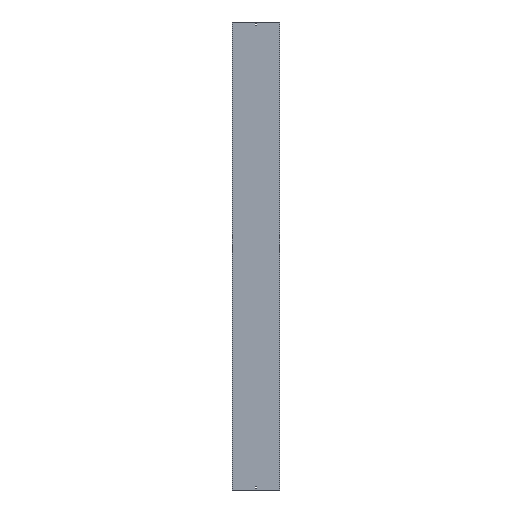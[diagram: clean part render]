
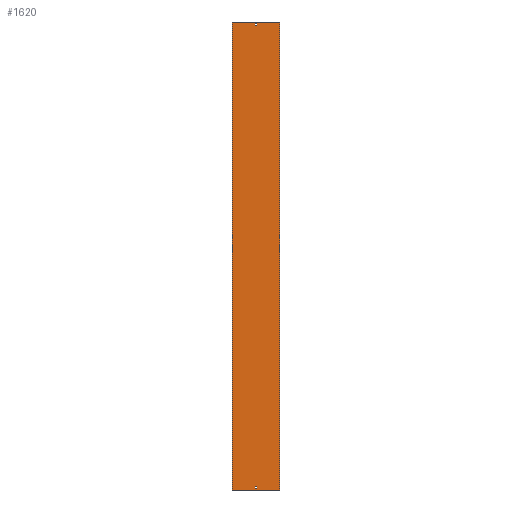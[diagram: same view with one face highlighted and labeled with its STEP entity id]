
A CAD part, front view. The second image highlights one B-rep face of the part: STEP entity #1620.
In plain terms, the highlighted planar face has unit normal (0, -1, 0).
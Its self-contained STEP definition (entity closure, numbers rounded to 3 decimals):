
#7 = LINE ( 'NONE', #376, #1618 ) ;
#9 = DIRECTION ( 'NONE',  ( 1., 0., 0. ) ) ;
#75 = VERTEX_POINT ( 'NONE', #1150 ) ;
#88 = EDGE_CURVE ( 'NONE', #940, #419, #652, .T. ) ;
#96 = CARTESIAN_POINT ( 'NONE',  ( -3.25, 0., 1479. ) ) ;
#99 = CARTESIAN_POINT ( 'NONE',  ( 3.25, 0., -1488. ) ) ;
#105 = DIRECTION ( 'NONE',  ( 0., 0., -1. ) ) ;
#112 = CARTESIAN_POINT ( 'NONE',  ( -152., 0., 1500. ) ) ;
#124 = CARTESIAN_POINT ( 'NONE',  ( 3.25, 0., 1479. ) ) ;
#127 = VERTEX_POINT ( 'NONE', #1544 ) ;
#135 = FACE_BOUND ( 'NONE', #486, .T. ) ;
#151 = CARTESIAN_POINT ( 'NONE',  ( 152., 0., 1500. ) ) ;
#160 = EDGE_CURVE ( 'NONE', #127, #533, #278, .T. ) ;
#166 = EDGE_LOOP ( 'NONE', ( #1317, #826, #477, #857 ) ) ;
#170 = DIRECTION ( 'NONE',  ( -1., 0., 0. ) ) ;
#176 = DIRECTION ( 'NONE',  ( 0., 0., -1. ) ) ;
#202 = VERTEX_POINT ( 'NONE', #1063 ) ;
#222 = CARTESIAN_POINT ( 'NONE',  ( -3.25, 0., -1488. ) ) ;
#234 = DIRECTION ( 'NONE',  ( 0., 0., 1. ) ) ;
#259 = FACE_OUTER_BOUND ( 'NONE', #166, .T. ) ;
#278 = LINE ( 'NONE', #151, #485 ) ;
#324 = VERTEX_POINT ( 'NONE', #732 ) ;
#330 = CARTESIAN_POINT ( 'NONE',  ( 3.25, 0., 1488. ) ) ;
#356 = LINE ( 'NONE', #1041, #1005 ) ;
#374 = CARTESIAN_POINT ( 'NONE',  ( -3.25, 0., 1488. ) ) ;
#376 = CARTESIAN_POINT ( 'NONE',  ( -3.25, 0., -1488. ) ) ;
#419 = VERTEX_POINT ( 'NONE', #124 ) ;
#426 = DIRECTION ( 'NONE',  ( 1., 0., 0. ) ) ;
#435 = AXIS2_PLACEMENT_3D ( 'NONE', #112, #1167, #502 ) ;
#477 = ORIENTED_EDGE ( 'NONE', *, *, #1259, .F. ) ;
#485 = VECTOR ( 'NONE', #176, 1000. ) ;
#486 = EDGE_LOOP ( 'NONE', ( #1284, #655, #1148, #1125 ) ) ;
#493 = VECTOR ( 'NONE', #1404, 1000. ) ;
#502 = DIRECTION ( 'NONE',  ( -1., 0., 0. ) ) ;
#504 = EDGE_CURVE ( 'NONE', #202, #324, #7, .T. ) ;
#516 = EDGE_CURVE ( 'NONE', #419, #790, #1269, .T. ) ;
#533 = VERTEX_POINT ( 'NONE', #1662 ) ;
#570 = VECTOR ( 'NONE', #1266, 1000. ) ;
#603 = LINE ( 'NONE', #99, #1443 ) ;
#637 = CARTESIAN_POINT ( 'NONE',  ( -3.25, 0., 1479. ) ) ;
#652 = LINE ( 'NONE', #637, #852 ) ;
#655 = ORIENTED_EDGE ( 'NONE', *, *, #998, .T. ) ;
#663 = LINE ( 'NONE', #1327, #1246 ) ;
#712 = ORIENTED_EDGE ( 'NONE', *, *, #516, .F. ) ;
#714 = LINE ( 'NONE', #1098, #570 ) ;
#718 = EDGE_CURVE ( 'NONE', #1651, #533, #1091, .T. ) ;
#732 = CARTESIAN_POINT ( 'NONE',  ( -3.25, 0., -1488. ) ) ;
#790 = VERTEX_POINT ( 'NONE', #330 ) ;
#817 = CARTESIAN_POINT ( 'NONE',  ( -3.25, 0., 1488. ) ) ;
#826 = ORIENTED_EDGE ( 'NONE', *, *, #160, .F. ) ;
#828 = EDGE_CURVE ( 'NONE', #897, #1651, #714, .T. ) ;
#830 = VECTOR ( 'NONE', #234, 1000. ) ;
#852 = VECTOR ( 'NONE', #9, 1000. ) ;
#857 = ORIENTED_EDGE ( 'NONE', *, *, #828, .T. ) ;
#879 = CARTESIAN_POINT ( 'NONE',  ( 3.25, 0., 1488. ) ) ;
#889 = EDGE_CURVE ( 'NONE', #1475, #940, #1153, .T. ) ;
#897 = VERTEX_POINT ( 'NONE', #1405 ) ;
#940 = VERTEX_POINT ( 'NONE', #96 ) ;
#944 = VECTOR ( 'NONE', #1496, 1000. ) ;
#998 = EDGE_CURVE ( 'NONE', #75, #1661, #663, .T. ) ;
#1005 = VECTOR ( 'NONE', #1306, 1000. ) ;
#1011 = LINE ( 'NONE', #222, #493 ) ;
#1017 = PLANE ( 'NONE',  #435 ) ;
#1041 = CARTESIAN_POINT ( 'NONE',  ( -152., 0., 1500. ) ) ;
#1063 = CARTESIAN_POINT ( 'NONE',  ( 3.25, 0., -1488. ) ) ;
#1069 = ORIENTED_EDGE ( 'NONE', *, *, #1356, .F. ) ;
#1091 = LINE ( 'NONE', #1634, #944 ) ;
#1098 = CARTESIAN_POINT ( 'NONE',  ( -152., 0., 1500. ) ) ;
#1125 = ORIENTED_EDGE ( 'NONE', *, *, #504, .T. ) ;
#1148 = ORIENTED_EDGE ( 'NONE', *, *, #1524, .T. ) ;
#1150 = CARTESIAN_POINT ( 'NONE',  ( -3.25, 0., -1479. ) ) ;
#1153 = LINE ( 'NONE', #374, #1547 ) ;
#1158 = CARTESIAN_POINT ( 'NONE',  ( -152., 0., -1500. ) ) ;
#1167 = DIRECTION ( 'NONE',  ( 0., 1., 0. ) ) ;
#1172 = ORIENTED_EDGE ( 'NONE', *, *, #889, .F. ) ;
#1208 = EDGE_CURVE ( 'NONE', #324, #75, #1011, .T. ) ;
#1246 = VECTOR ( 'NONE', #426, 1000. ) ;
#1259 = EDGE_CURVE ( 'NONE', #897, #127, #356, .T. ) ;
#1266 = DIRECTION ( 'NONE',  ( 0., 0., -1. ) ) ;
#1269 = LINE ( 'NONE', #879, #830 ) ;
#1284 = ORIENTED_EDGE ( 'NONE', *, *, #1208, .T. ) ;
#1289 = CARTESIAN_POINT ( 'NONE',  ( 3.25, 0., -1479. ) ) ;
#1306 = DIRECTION ( 'NONE',  ( 1., 0., 0. ) ) ;
#1317 = ORIENTED_EDGE ( 'NONE', *, *, #718, .T. ) ;
#1327 = CARTESIAN_POINT ( 'NONE',  ( -3.25, 0., -1479. ) ) ;
#1354 = CARTESIAN_POINT ( 'NONE',  ( -3.25, 0., 1488. ) ) ;
#1356 = EDGE_CURVE ( 'NONE', #790, #1475, #1608, .T. ) ;
#1357 = EDGE_LOOP ( 'NONE', ( #1438, #1172, #1069, #712 ) ) ;
#1372 = DIRECTION ( 'NONE',  ( 0., 0., -1. ) ) ;
#1404 = DIRECTION ( 'NONE',  ( 0., 0., 1. ) ) ;
#1405 = CARTESIAN_POINT ( 'NONE',  ( -152., 0., 1500. ) ) ;
#1416 = VECTOR ( 'NONE', #170, 1000. ) ;
#1438 = ORIENTED_EDGE ( 'NONE', *, *, #88, .F. ) ;
#1443 = VECTOR ( 'NONE', #1372, 1000. ) ;
#1475 = VERTEX_POINT ( 'NONE', #1354 ) ;
#1496 = DIRECTION ( 'NONE',  ( 1., 0., 0. ) ) ;
#1524 = EDGE_CURVE ( 'NONE', #1661, #202, #603, .T. ) ;
#1534 = DIRECTION ( 'NONE',  ( -1., 0., 0. ) ) ;
#1544 = CARTESIAN_POINT ( 'NONE',  ( 152., 0., 1500. ) ) ;
#1547 = VECTOR ( 'NONE', #105, 1000. ) ;
#1608 = LINE ( 'NONE', #817, #1416 ) ;
#1618 = VECTOR ( 'NONE', #1534, 1000. ) ;
#1620 = ADVANCED_FACE ( 'NONE', ( #259, #1633, #135 ), #1017, .F. ) ;
#1633 = FACE_BOUND ( 'NONE', #1357, .T. ) ;
#1634 = CARTESIAN_POINT ( 'NONE',  ( -152., 0., -1500. ) ) ;
#1651 = VERTEX_POINT ( 'NONE', #1158 ) ;
#1661 = VERTEX_POINT ( 'NONE', #1289 ) ;
#1662 = CARTESIAN_POINT ( 'NONE',  ( 152., 0., -1500. ) ) ;
